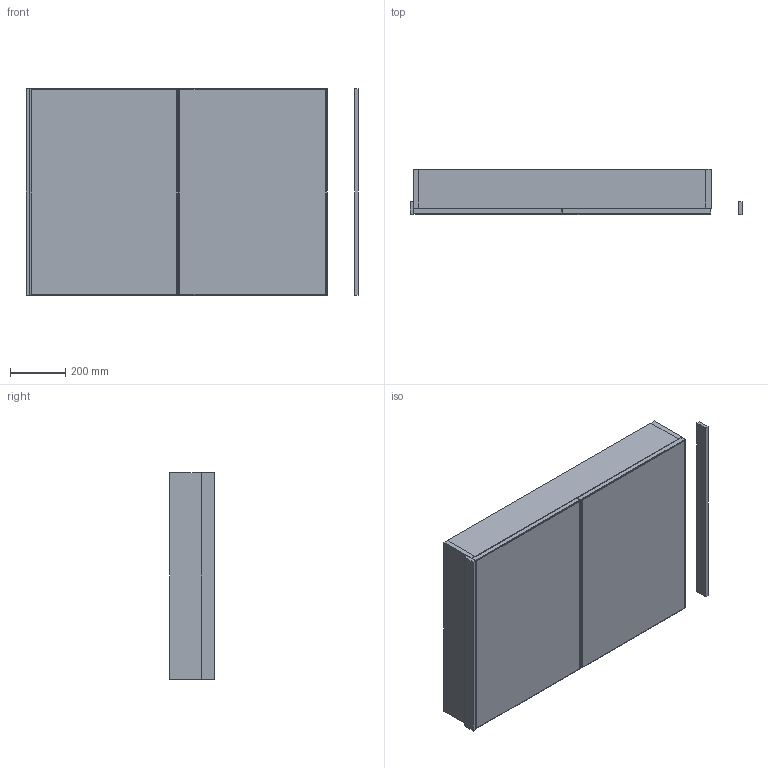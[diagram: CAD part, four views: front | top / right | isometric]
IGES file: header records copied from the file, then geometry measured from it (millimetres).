
Start section: Data from Parasolid IGES Translator 19.0.9, Copyright(c) 2006 Siemens PL M Software. All Rights Reserved.
Global section: file name: noorth-mirror-H 75 D 4,5-16 W 108_9137.igs; native system: By Siemens PLM Incorporated; preprocessor: XPlus GENERIC/IGES 19.0.9; author: Noname; organization: Noname; date: 20200519.105517; units: metre
Bounding box: 1203.82 x 162 x 750 mm (x, y, z)
Volume: 29771949.8 mm3; surface area: 6750334.3 mm2
Topology: 14 solids, 14 shells, 168 faces, 324 edges, 184 vertices
Faces by surface type: plane 168
